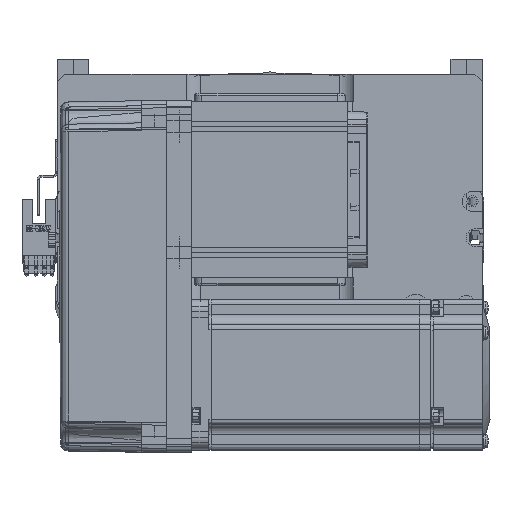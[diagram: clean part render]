
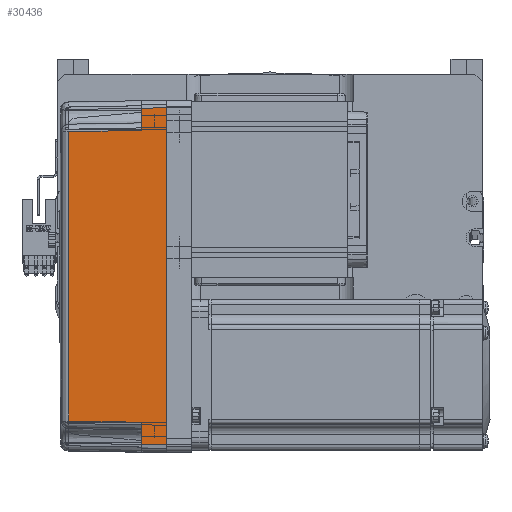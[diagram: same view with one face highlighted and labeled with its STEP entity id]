
A CAD part, top view. The second image highlights one B-rep face of the part: STEP entity #30436.
In plain terms, the highlighted planar face has unit normal (-0.018, 0, 1) as drawn and (0, -1, 0.017) by its records, which use the part's own axes.
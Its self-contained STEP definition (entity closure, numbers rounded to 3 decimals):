
#527 = DIRECTION ( 'NONE',  ( -0.017, 0.017, 1. ) ) ;
#1387 = CARTESIAN_POINT ( 'NONE',  ( -57.495, -35.32, 38.985 ) ) ;
#1584 = ORIENTED_EDGE ( 'NONE', *, *, #38456, .F. ) ;
#2121 = LINE ( 'NONE', #66348, #15849 ) ;
#3008 = CARTESIAN_POINT ( 'NONE',  ( 67., -36., 0. ) ) ;
#3072 = EDGE_CURVE ( 'NONE', #52106, #14302, #26093, .T. ) ;
#7806 = FACE_OUTER_BOUND ( 'NONE', #35212, .T. ) ;
#8767 = CARTESIAN_POINT ( 'NONE',  ( -67., -36., 0. ) ) ;
#9585 = EDGE_CURVE ( 'NONE', #61649, #63272, #12481, .T. ) ;
#11811 = DIRECTION ( 'NONE',  ( 0., -0.017, -1. ) ) ;
#12373 = CARTESIAN_POINT ( 'NONE',  ( 57.495, -35.32, 38.985 ) ) ;
#12481 = LINE ( 'NONE', #13572, #42505 ) ;
#13572 = CARTESIAN_POINT ( 'NONE',  ( 70., -35.825, 10. ) ) ;
#14302 = VERTEX_POINT ( 'NONE', #51389 ) ;
#15849 = VECTOR ( 'NONE', #29757, 1000. ) ;
#16222 = CARTESIAN_POINT ( 'NONE',  ( -58., -35.825, 10. ) ) ;
#16913 = CARTESIAN_POINT ( 'NONE',  ( 19.165, -35.316, 39.181 ) ) ;
#17803 = CARTESIAN_POINT ( 'NONE',  ( -57.495, -35.32, 38.985 ) ) ;
#19666 = LINE ( 'NONE', #41474, #39116 ) ;
#22139 = CARTESIAN_POINT ( 'NONE',  ( -57.495, -35.32, 38.985 ) ) ;
#22795 = VECTOR ( 'NONE', #32923, 1000. ) ;
#23013 = CARTESIAN_POINT ( 'NONE',  ( 58., -35.825, 10. ) ) ;
#23173 = CARTESIAN_POINT ( 'NONE',  ( 70., -35.825, 10. ) ) ;
#24919 = VECTOR ( 'NONE', #61082, 1000. ) ;
#24943 = VECTOR ( 'NONE', #57324, 1000. ) ;
#25811 = ORIENTED_EDGE ( 'NONE', *, *, #29768, .T. ) ;
#26093 = LINE ( 'NONE', #23173, #22795 ) ;
#27025 = DIRECTION ( 'NONE',  ( 0., -1., 0.017 ) ) ;
#28875 = B_SPLINE_CURVE_WITH_KNOTS ( 'NONE', 3,
 ( #12373, #16913, #53618, #1387 ),
 .UNSPECIFIED., .F., .F.,
 ( 4, 4 ),
 ( 0., 1. ),
 .UNSPECIFIED. ) ;
#29757 = DIRECTION ( 'NONE',  ( -1., 0., 0. ) ) ;
#29768 = EDGE_CURVE ( 'NONE', #63272, #42760, #33797, .T. ) ;
#30044 = ORIENTED_EDGE ( 'NONE', *, *, #9585, .T. ) ;
#30436 = ADVANCED_FACE ( 'NONE', ( #7806 ), #63206, .T. ) ;
#30905 = ORIENTED_EDGE ( 'NONE', *, *, #3072, .T. ) ;
#31509 = VERTEX_POINT ( 'NONE', #8767 ) ;
#31976 = CARTESIAN_POINT ( 'NONE',  ( -66.959, -35.958, 2.39 ) ) ;
#32541 = DIRECTION ( 'NONE',  ( -0.017, -0.017, -1. ) ) ;
#32635 = CARTESIAN_POINT ( 'NONE',  ( 70., -36., 0. ) ) ;
#32923 = DIRECTION ( 'NONE',  ( -1., 0., 0. ) ) ;
#33797 = LINE ( 'NONE', #40061, #24919 ) ;
#35212 = EDGE_LOOP ( 'NONE', ( #53629, #30044, #25811, #47314, #58017, #30905, #1584, #35416 ) ) ;
#35416 = ORIENTED_EDGE ( 'NONE', *, *, #66746, .F. ) ;
#38456 = EDGE_CURVE ( 'NONE', #31509, #14302, #57342, .T. ) ;
#39116 = VECTOR ( 'NONE', #527, 1000. ) ;
#39121 = CARTESIAN_POINT ( 'NONE',  ( 57.495, -35.32, 38.985 ) ) ;
#40061 = CARTESIAN_POINT ( 'NONE',  ( 58., -35.825, 10. ) ) ;
#41474 = CARTESIAN_POINT ( 'NONE',  ( 67., -36., 0. ) ) ;
#42505 = VECTOR ( 'NONE', #65193, 1000. ) ;
#42760 = VERTEX_POINT ( 'NONE', #39121 ) ;
#43933 = EDGE_CURVE ( 'NONE', #56066, #61649, #19666, .T. ) ;
#47314 = ORIENTED_EDGE ( 'NONE', *, *, #63168, .T. ) ;
#48185 = AXIS2_PLACEMENT_3D ( 'NONE', #32635, #27025, #11811 ) ;
#49012 = CARTESIAN_POINT ( 'NONE',  ( 66.826, -35.825, 10. ) ) ;
#51389 = CARTESIAN_POINT ( 'NONE',  ( -66.826, -35.825, 10. ) ) ;
#51735 = EDGE_CURVE ( 'NONE', #66140, #52106, #54404, .T. ) ;
#52106 = VERTEX_POINT ( 'NONE', #16222 ) ;
#53618 = CARTESIAN_POINT ( 'NONE',  ( -19.165, -35.316, 39.181 ) ) ;
#53629 = ORIENTED_EDGE ( 'NONE', *, *, #43933, .T. ) ;
#54404 = LINE ( 'NONE', #22139, #56867 ) ;
#56066 = VERTEX_POINT ( 'NONE', #3008 ) ;
#56867 = VECTOR ( 'NONE', #32541, 1000. ) ;
#57324 = DIRECTION ( 'NONE',  ( 0.017, 0.017, 1. ) ) ;
#57342 = LINE ( 'NONE', #31976, #24943 ) ;
#58017 = ORIENTED_EDGE ( 'NONE', *, *, #51735, .T. ) ;
#61082 = DIRECTION ( 'NONE',  ( -0.017, 0.017, 1. ) ) ;
#61649 = VERTEX_POINT ( 'NONE', #49012 ) ;
#63168 = EDGE_CURVE ( 'NONE', #42760, #66140, #28875, .T. ) ;
#63206 = PLANE ( 'NONE',  #48185 ) ;
#63272 = VERTEX_POINT ( 'NONE', #23013 ) ;
#65193 = DIRECTION ( 'NONE',  ( -1., 0., 0. ) ) ;
#66140 = VERTEX_POINT ( 'NONE', #17803 ) ;
#66348 = CARTESIAN_POINT ( 'NONE',  ( 0., -36., 0. ) ) ;
#66746 = EDGE_CURVE ( 'NONE', #56066, #31509, #2121, .T. ) ;
